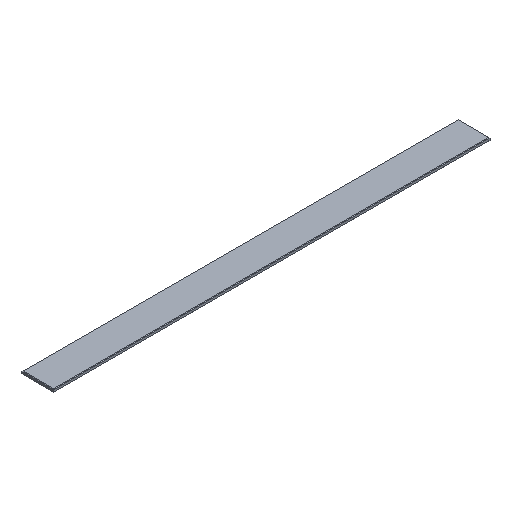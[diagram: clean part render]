
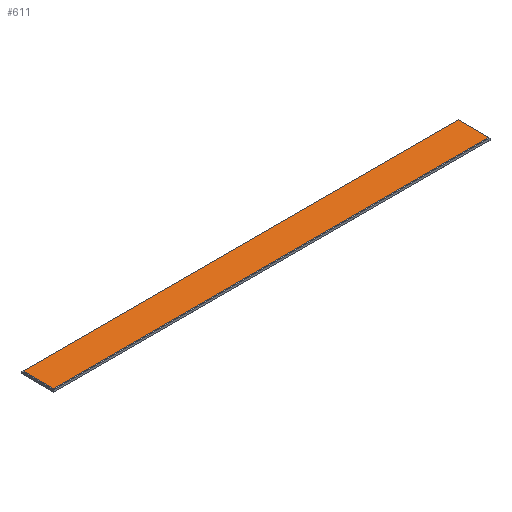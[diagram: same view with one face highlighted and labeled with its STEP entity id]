
A CAD part, isometric view. The second image highlights one B-rep face of the part: STEP entity #611.
In plain terms, the highlighted planar face has unit normal (0, 0, 1).
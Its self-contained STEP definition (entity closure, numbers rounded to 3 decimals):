
#361=DIRECTION('',(-1.,0.,0.));
#362=VECTOR('',#361,837.);
#363=CARTESIAN_POINT('',(418.5,29.5,3.));
#364=LINE('',#363,#362);
#368=DIRECTION('',(0.,1.,0.));
#369=VECTOR('',#368,59.);
#370=CARTESIAN_POINT('',(418.5,-29.5,3.));
#371=LINE('',#370,#369);
#375=DIRECTION('',(1.,0.,0.));
#376=VECTOR('',#375,837.);
#377=CARTESIAN_POINT('',(-418.5,-29.5,3.));
#378=LINE('',#377,#376);
#382=DIRECTION('',(0.,-1.,0.));
#383=VECTOR('',#382,59.);
#384=CARTESIAN_POINT('',(-418.5,29.5,3.));
#385=LINE('',#384,#383);
#400=CARTESIAN_POINT('',(418.5,29.5,3.));
#401=CARTESIAN_POINT('',(-418.5,29.5,3.));
#402=VERTEX_POINT('',#400);
#403=VERTEX_POINT('',#401);
#424=CARTESIAN_POINT('',(-418.5,-29.5,3.));
#425=CARTESIAN_POINT('',(418.5,-29.5,3.));
#426=VERTEX_POINT('',#424);
#427=VERTEX_POINT('',#425);
#599=CARTESIAN_POINT('',(0.,0.,3.));
#600=DIRECTION('',(0.,0.,1.));
#601=DIRECTION('',(1.,0.,0.));
#602=AXIS2_PLACEMENT_3D('',#599,#600,#601);
#603=PLANE('',#602);
#604=ORIENTED_EDGE('',*,*,#482,.F.);
#605=ORIENTED_EDGE('',*,*,#498,.F.);
#607=ORIENTED_EDGE('',*,*,#606,.F.);
#608=ORIENTED_EDGE('',*,*,#592,.F.);
#609=EDGE_LOOP('',(#604,#605,#607,#608));
#610=FACE_OUTER_BOUND('',#609,.F.);
#482=EDGE_CURVE('',#402,#403,#364,.T.);
#498=EDGE_CURVE('',#427,#402,#371,.T.);
#592=EDGE_CURVE('',#403,#426,#385,.T.);
#606=EDGE_CURVE('',#426,#427,#378,.T.);
#611=ADVANCED_FACE('',(#610),#603,.T.);
